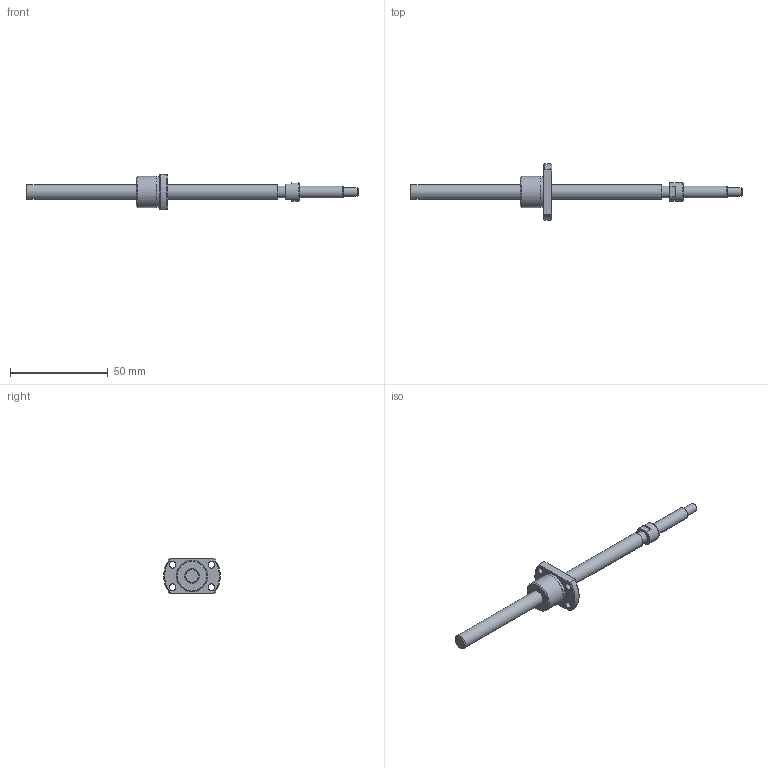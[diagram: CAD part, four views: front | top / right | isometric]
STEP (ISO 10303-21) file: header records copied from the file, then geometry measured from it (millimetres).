
FILE_DESCRIPTION(/* description */ ('STEP AP214'),/* implementation_level */ '2;1');
FILE_NAME(/* name */ 'SG0802.5-129R170C5A0X(56.5)',/* time_stamp */ '2026-07-21T16:47:18+02:00',/* author */ ('License CC BY-ND 4.0'),/* organization */ ('CADENAS'),/* preprocessor_version */ 'ST-DEVELOPER v20',/* originating_system */ 'PARTsolutions',/* authorisation */ ' ');
FILE_SCHEMA (('AUTOMOTIVE_DESIGN {1 0 10303 214 3 1 1}'));
Length unit declared in the file: millimetre
Products named in the file (3): SG0802.5-129R170C5A0X(56.5); SG0802.5-129R170C5A_shaft; SG0802.5 C5_nut
Assembly tree (2 placements, depth 2):
  SG0802.5-129R170C5A0X(56.5)
    SG0802.5-129R170C5A_shaft
    SG0802.5 C5_nut
Bounding box: 170 x 29 x 18 mm (x, y, z)
Volume: 10453.8 mm3; surface area: 6291.5 mm2
Topology: 2 solids, 2 shells, 44 faces, 93 edges, 60 vertices
Faces by surface type: plane 18, cylinder 16, cone 9, torus 1
Full cylindrical faces by diameter (mm): 3.4 x4, 4.5 x1, 6 x2, 7.5 x2, 9.5 x1, 15.7 x1, 16 x1
Entity records: 1198 total; most frequent: DIRECTION 205, CARTESIAN_POINT 204, ORIENTED_EDGE 148, AXIS2_PLACEMENT_3D 92, EDGE_LOOP 79, FACE_BOUND 79, EDGE_CURVE 74, VERTEX_POINT 59
